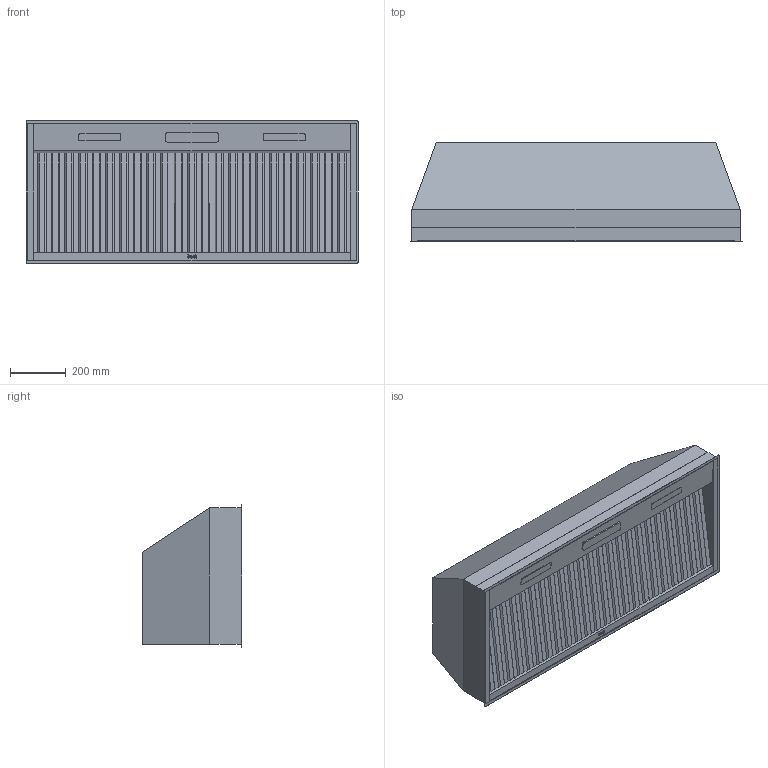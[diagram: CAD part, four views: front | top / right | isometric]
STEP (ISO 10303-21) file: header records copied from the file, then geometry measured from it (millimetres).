
FILE_DESCRIPTION((''),'2;1');
FILE_NAME('HBN548912SS_WEB_CAD_MODEL','2025-04-29T08:27:10',('BoutinM'),(''),'CREO PARAMETRIC BY PTC INC, 2023424','CREO PARAMETRIC BY PTC INC, 2023424','');
FILE_SCHEMA(('CONFIG_CONTROL_DESIGN','SHAPE_APPEARANCE_LAYERS_GROUPS'));
Length unit declared in the file: inch
Products named in the file (1): HBN548912SS_WEB_CAD_MODEL
Bounding box: 1189.41 x 357.48 x 514.35 mm (x, y, z)
Volume: 156395711.8 mm3; surface area: 2356389.8 mm2
Topology: 1 solids, 1 shells, 278 faces, 710 edges, 442 vertices
Faces by surface type: plane 249, cylinder 29
Entity records: 11061 total; most frequent: CARTESIAN_POINT 1430, ORIENTED_EDGE 1420, DIRECTION 1324, PRESENTATION_STYLE_ASSIGNMENT 746, STYLED_ITEM 711, CURVE_STYLE 710, EDGE_CURVE 710, VECTOR 652
